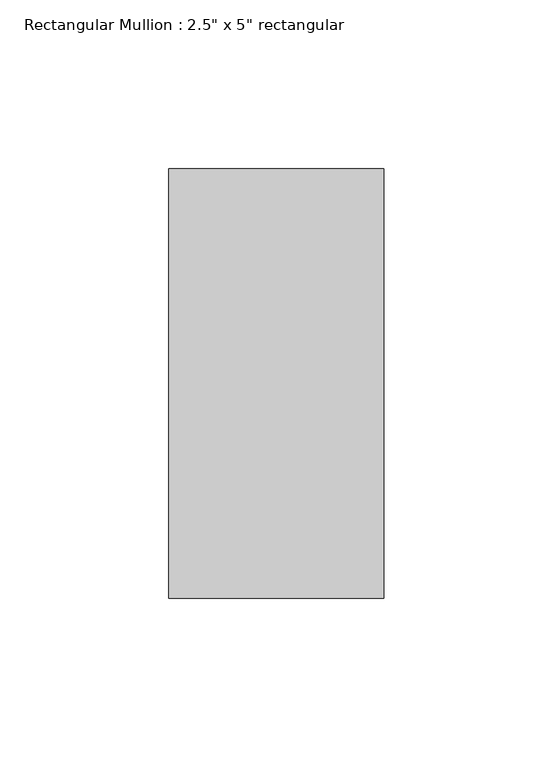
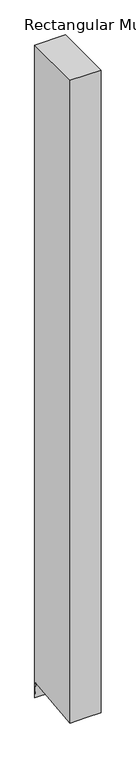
"""IFC4 building model written with IfcOpenShell, lengths in millimetres: member geometry."""

import ifcopenshell
import ifcopenshell.guid

model = None  # the IFC model being written
_history = None  # IfcOwnerHistory: only IFC2X3 demands one
_inside = {}  # id of a spatial element -> (the spatial element, [elements in it])
_under = {}  # id of a project, library or spatial element -> (it, [spatial elements below it])
_declared = {}  # id of a project -> (the project, [libraries it declares])
_typed = {}  # id of a type object -> (the type object, [elements of that type])
_made_of = {}  # id of a material, layer set ... -> (it, [elements and type objects made of it])


def new_model(schema):
    """Start an empty IFC model of exactly this schema.

    Asked for "IFC4X3", IfcOpenShell would pick the latest addendum, in which some entities
    have other attributes; the version numbers below select the first issue.
    IFC2X3 requires an IfcOwnerHistory on every rooted entity: one is made here for all.
    """
    global model, _history
    if schema == "IFC4X3":
        model = ifcopenshell.file(schema_version=(4, 3, 0, 0))
    else:
        model = ifcopenshell.file(schema=schema)
    _inside.clear()
    _under.clear()
    _declared.clear()
    _typed.clear()
    _made_of.clear()
    _history = None
    if model.schema == "IFC2X3":
        org = make("IfcOrganization", Name="unknown")
        user = make(
            "IfcPersonAndOrganization",
            ThePerson=make("IfcPerson", FamilyName="unknown"),
            TheOrganization=org,
        )
        app = make(
            "IfcApplication",
            ApplicationDeveloper=org,
            Version="unknown",
            ApplicationFullName="unknown",
            ApplicationIdentifier="unknown",
        )
        _history = make(
            "IfcOwnerHistory",
            OwningUser=user,
            OwningApplication=app,
            ChangeAction="ADDED",
            CreationDate=0,
        )
    return model


def make(cls, **values):
    """One entity of the class cls with the attributes given. An attribute that is None is left unset."""
    return model.create_entity(
        cls, **{name: value for name, value in values.items() if value is not None}
    )


def rooted(cls, **values):
    """An entity with a GlobalId (a new one), such as an element, a storey or a relation."""
    return make(cls, GlobalId=ifcopenshell.guid.new(), OwnerHistory=_history, **values)


def si_unit(unit_type, name, prefix=None):
    """IfcSIUnit, for example si_unit("LENGTHUNIT", "METRE", prefix="MILLI")."""
    return make("IfcSIUnit", UnitType=unit_type, Prefix=prefix, Name=name)


def assignment(units):
    """IfcUnitAssignment: the units of a project."""
    return None if units is None else make("IfcUnitAssignment", Units=units)


def point(xyz):
    """IfcCartesianPoint."""
    return None if xyz is None else make("IfcCartesianPoint", Coordinates=xyz)


def direction(xyz):
    """IfcDirection."""
    return None if xyz is None else make("IfcDirection", DirectionRatios=xyz)


def frame(location, z_axis=None, x_axis=None):
    """IfcAxis2Placement3D, a coordinate frame: its origin and axes. An axis left out is left unset."""
    return make(
        "IfcAxis2Placement3D",
        Location=point(location),
        Axis=direction(z_axis),
        RefDirection=direction(x_axis),
    )


def origin():
    """The frame at (0, 0, 0) with its axes left unset."""
    return frame((0.0, 0.0, 0.0))


def place(relative_to, where):
    """IfcLocalPlacement: puts the frame where relative to a parent placement (None: the world)."""
    return make(
        "IfcLocalPlacement", PlacementRelTo=relative_to, RelativePlacement=where
    )


def context(
    kind, dimensions, precision=None, world=None, true_north=None, identifier=None
):
    """IfcGeometricRepresentationContext, for example the 3D "Model" context."""
    return make(
        "IfcGeometricRepresentationContext",
        ContextIdentifier=identifier,
        ContextType=kind,
        CoordinateSpaceDimension=dimensions,
        Precision=precision,
        WorldCoordinateSystem=world,
        TrueNorth=true_north,
    )


def project(units=None, contexts=None):
    """IfcProject with its units and contexts."""
    return rooted(
        "IfcProject",
        Name="project",
        RepresentationContexts=contexts,
        UnitsInContext=assignment(units),
    )


def spatial(cls, under=None, at=None, **own):
    """A site, building, storey or space (cls), placed at a placement, below another one or the project."""
    s = rooted(cls, ObjectPlacement=at, **own)
    if under is not None:
        _under.setdefault(under.id(), (under, []))[1].append(s)
    return s


def faces_of(points, faces, orient=None, outer=None):
    """IfcFace entities. A face is a list of loops; a loop is a list of indices into points, from 0.

    orient and outer hold one flag for each loop. By default every Orientation is true, the
    first loop of a face is its IfcFaceOuterBound and the others are IfcFaceBound.
    """
    made = []
    for i, loops in enumerate(faces):
        bounds = []
        for j, loop in enumerate(loops):
            is_outer = j == 0 if outer is None else outer[i][j]
            bounds.append(
                make(
                    "IfcFaceOuterBound" if is_outer else "IfcFaceBound",
                    Bound=make("IfcPolyLoop", Polygon=[points[k] for k in loop]),
                    Orientation=True if orient is None else orient[i][j],
                )
            )
        made.append(make("IfcFace", Bounds=bounds))
    return made


def faceted_brep(points, faces, orient=None, outer=None, voids=None):
    """IfcFacetedBrep: a solid bounded by flat faces; with voids (closed shells), ...WithVoids."""
    shared = [point(p) for p in points]
    hull = make("IfcClosedShell", CfsFaces=faces_of(shared, faces, orient, outer))
    if voids is None:
        return make("IfcFacetedBrep", Outer=hull)
    return make(
        "IfcFacetedBrepWithVoids",
        Outer=hull,
        Voids=[
            make(cls, CfsFaces=faces_of(shared, fs, o, b)) for cls, fs, o, b in voids
        ],
    )


def shape(context_of_items, identifier, shape_type, items):
    """IfcShapeRepresentation: the items that make up one representation, for example the "Body"."""
    return make(
        "IfcShapeRepresentation",
        ContextOfItems=context_of_items,
        RepresentationIdentifier=identifier,
        RepresentationType=shape_type,
        Items=items,
    )


def source(mapping_origin, context_of_items, identifier, shape_type, items):
    """IfcRepresentationMap: a shape defined once, which mapped items show again and again."""
    return make(
        "IfcRepresentationMap",
        MappingOrigin=mapping_origin,
        MappedRepresentation=shape(context_of_items, identifier, shape_type, items),
    )


def transform(
    local_origin,
    x_axis=None,
    y_axis=None,
    z_axis=None,
    scale=None,
    scale2=None,
    scale3=None,
    uniform=True,
):
    """IfcCartesianTransformationOperator3D, or its non-uniform kind. x_axis, y_axis, z_axis: its Axis1, 2, 3."""
    if uniform:
        return make(
            "IfcCartesianTransformationOperator3D",
            Axis1=direction(x_axis),
            Axis2=direction(y_axis),
            LocalOrigin=point(local_origin),
            Scale=scale,
            Axis3=direction(z_axis),
        )
    return make(
        "IfcCartesianTransformationOperator3DnonUniform",
        Axis1=direction(x_axis),
        Axis2=direction(y_axis),
        LocalOrigin=point(local_origin),
        Scale=scale,
        Axis3=direction(z_axis),
        Scale2=scale2,
        Scale3=scale3,
    )


def mapped(mapping_source, mapping_target):
    """IfcMappedItem: shows the shape of a source again, moved by a transform."""
    return make(
        "IfcMappedItem", MappingSource=mapping_source, MappingTarget=mapping_target
    )


def made_of(thing, what):
    """Note that an element or type object is made of a material, layer set ...; save() writes the relation."""
    if what is not None:
        _made_of.setdefault(what.id(), (what, []))[1].append(thing)
    return thing


def element(
    cls,
    number,
    at=None,
    inside=None,
    cuts=None,
    type_object=None,
    material=None,
    context=None,
    identifier="Body",
    shape_type=None,
    held_by="IfcProductDefinitionShape",
    body=None,
    shapes=None,
    **own,
):
    """One element of the class cls, such as IfcWall. Its Tag is "e" and its number.

    at: its placement. inside: the storey or other place that contains it. cuts: it is an
    opening in that element (IfcRelVoidsElement). A single representation is given by context,
    identifier, shape_type and body (its items); several are given by shapes. held_by: the class
    of the entity that holds the representations. save() writes the other relations.
    """
    e = rooted(cls, Tag="e%d" % number, ObjectPlacement=at, **own)
    if body is not None:
        shapes = [shape(context, identifier, shape_type, body)]
    if shapes is not None:
        e.Representation = make(held_by, Representations=shapes)
    if inside is not None:
        _inside.setdefault(inside.id(), (inside, []))[1].append(e)
    if cuts is not None:
        rooted(
            "IfcRelVoidsElement", RelatingBuildingElement=cuts, RelatedOpeningElement=e
        )
    if type_object is not None:
        _typed.setdefault(type_object.id(), (type_object, []))[1].append(e)
    return made_of(e, material)


def aggregate(whole, parts):
    """IfcRelAggregates: a whole, such as a stair, and the parts it consists of."""
    return rooted("IfcRelAggregates", RelatingObject=whole, RelatedObjects=parts)


def save(model, path):
    """Write the relations noted so far, then the file.

    IfcRelAggregates (storeys below a building ...), IfcRelContainedInSpatialStructure (elements
    in a storey), IfcRelDefinesByType, IfcRelAssociatesMaterial and IfcRelDeclares: one each for
    every whole, place, type object, material and project.
    """
    for whole, parts in _under.values():
        aggregate(whole, parts)
    for where, things in _inside.values():
        rooted(
            "IfcRelContainedInSpatialStructure",
            RelatedElements=things,
            RelatingStructure=where,
        )
    for kind, things in _typed.values():
        rooted("IfcRelDefinesByType", RelatedObjects=things, RelatingType=kind)
    for what, things in _made_of.values():
        rooted("IfcRelAssociatesMaterial", RelatedObjects=things, RelatingMaterial=what)
    for by, libraries in _declared.values():
        rooted("IfcRelDeclares", RelatingContext=by, RelatedDefinitions=libraries)
    model.write(path)


def member_5575938c(model_context):
    return source(origin(), model_context, "Body", "Brep", [
        faceted_brep([(31.75, 63.5, 0.0), (-31.75, 63.5, 0.0), (-31.75, -63.5, 0.0), (31.75, -63.5, 0.0), (31.75, 63.5, -1425.6268913), (0.0, 63.5, -1425.6268913), (-31.75, 63.5, -1425.6268913), (-31.75, 59.8333616, -1390.7411577), (-31.75, -63.5, -1403.7040164), (0.0, -63.5, -1403.7040164), (31.75, -63.5, -1403.7040164), (31.75, 59.8333616, -1390.7411577), (0.0, 59.8333616, -1390.7411577)], [[[0, 1, 2, 3]], [[1, 0, 4, 5, 6]], [[2, 1, 6, 7, 8]], [[3, 2, 8, 9, 10]], [[0, 3, 10, 11, 4]], [[4, 11, 12, 5]], [[11, 10, 9, 12]], [[9, 8, 7, 12]], [[7, 6, 5, 12]]]),
    ])


if __name__ == "__main__":
    model = new_model("IFC4")
    model_context = context("Model", 3, world=origin())
    ifc_project = project(units=[si_unit("LENGTHUNIT", "METRE", prefix="MILLI")], contexts=[model_context])
    site = spatial("IfcSite", under=ifc_project)
    building = spatial("IfcBuilding", under=site)
    placement = place(None, origin())
    member_shape = member_5575938c(model_context)
    element("IfcMember", 1, ObjectType="Rectangular Mullion : 2.5\" x 5\" rectangular", at=placement, inside=building, context=model_context, shape_type="MappedRepresentation", body=[
        mapped(member_shape, transform((0.0, 0.0, 0.0), x_axis=(1.0, 0.0, 0.0), y_axis=(0.0, 1.0, 0.0), z_axis=(0.0, 0.0, 1.0))),
    ])
    save(model, "model.ifc")
